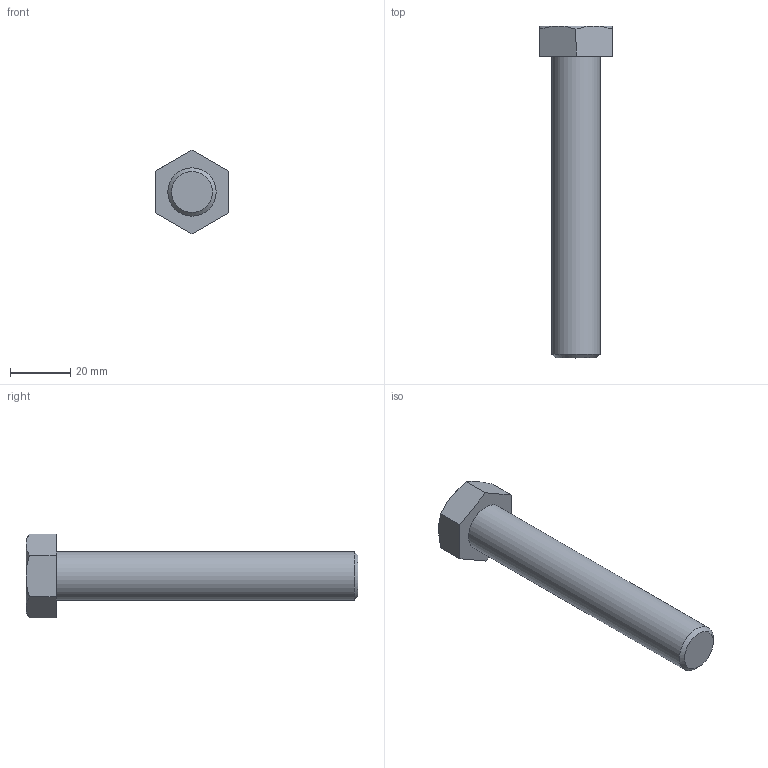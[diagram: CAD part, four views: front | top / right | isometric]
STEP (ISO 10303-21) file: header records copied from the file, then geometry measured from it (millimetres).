
FILE_DESCRIPTION(/* description */ (''),/* implementation_level */ '2;1');
FILE_NAME(/* name */ 'C:\Users\unitec\Documents\Inventor\各種小物\JIS\JIS B 1180 六角ボルト 等級C\hbc16\M16x100.stp',/* time_stamp */ '2015-02-13T14:52:15+09:00',/* author */ ('unitec'),/* organization */ (''),/* preprocessor_version */ 'ST-DEVELOPER v15.2',/* originating_system */ 'Autodesk Inventor 2014',/* authorisation */ '');
FILE_SCHEMA (('AUTOMOTIVE_DESIGN { 1 0 10303 214 3 1 1 }'));
Length unit declared in the file: millimetre
Products named in the file (1): M16x100
Bounding box: 24 x 110 x 27.71 mm (x, y, z)
Volume: 25043.4 mm3; surface area: 6794 mm2
Topology: 1 solids, 1 shells, 17 faces, 35 edges, 21 vertices
Faces by surface type: plane 9, cone 7, cylinder 1
Full cylindrical faces by diameter (mm): 16 x1
Entity records: 441 total; most frequent: CARTESIAN_POINT 96, ORIENTED_EDGE 66, DIRECTION 66, EDGE_CURVE 33, AXIS2_PLACEMENT_3D 27, VERTEX_POINT 21, EDGE_LOOP 20, ADVANCED_FACE 17
